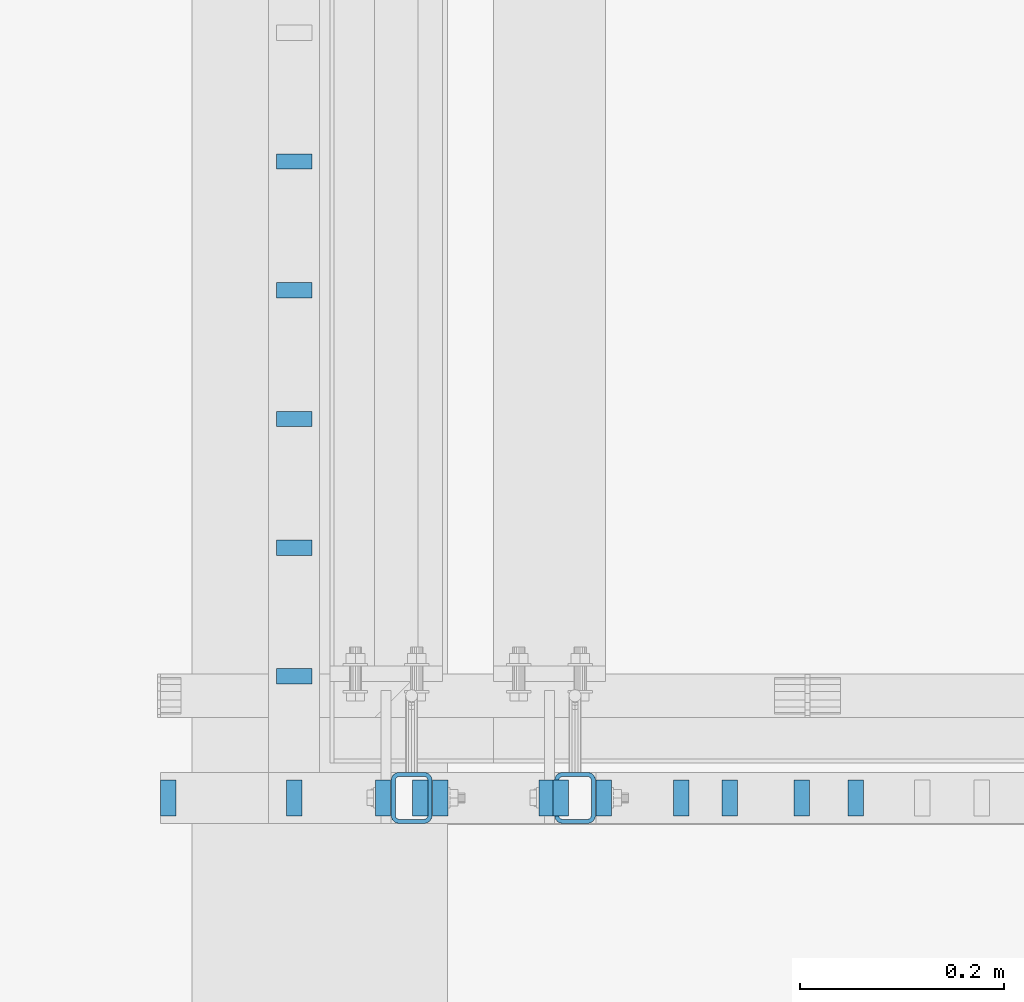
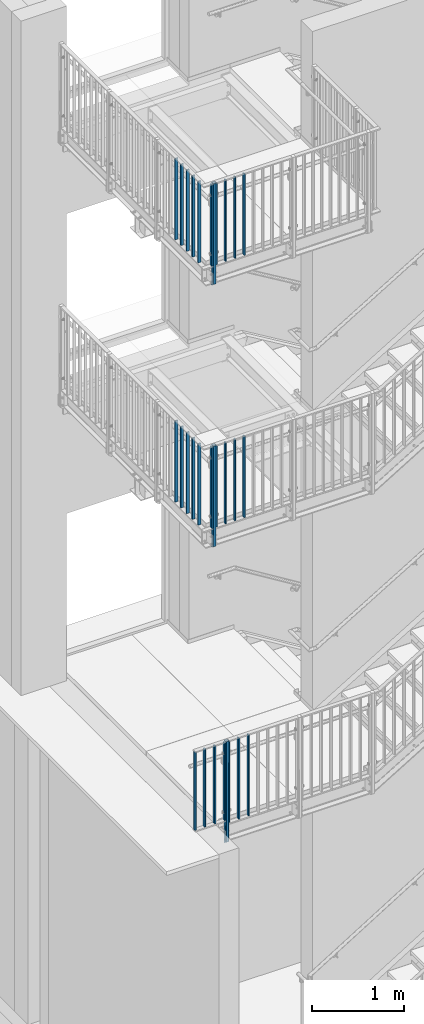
# One storey, part 1 of 410: 30 columns, 36 openings.
"""IFC2X3 building model written with IfcOpenShell, lengths in millimetres."""

from ifc_helpers import new_model, entity, si_unit, converted_unit, frame, frame_2d, origin, origin_with_axes, origin_2d, place, context, project, spatial, rectangle, hollow_rectangle, circle, extrude, clip, halfspace, material, element, save


model = new_model("IFC2X3")

# Units and contexts
model_context = context("Model", 3, precision=1e-09, world=origin_with_axes())
ifc_project = project(units=[si_unit("LENGTHUNIT", "METRE", prefix="MILLI"), si_unit("AREAUNIT", "SQUARE_METRE"), si_unit("VOLUMEUNIT", "CUBIC_METRE"), converted_unit("PLANEANGLEUNIT", "DEGREE", entity("IfcPlaneAngleMeasure", 0.01745329), si_unit("PLANEANGLEUNIT", "RADIAN"), dimensions=[0, 0, 0, 0, 0, 0, 0])], contexts=[model_context])

# Site, building, storey
site_placement = place(None, origin_with_axes())
site = spatial("IfcSite", under=ifc_project, at=site_placement, Name="mKR Teilneubau & Sanierung BA1 - Ostfildern", CompositionType="ELEMENT")
building_placement = place(site_placement, origin_with_axes())
building = spatial("IfcBuilding", under=site, at=building_placement, Name="Struktur 1", CompositionType="ELEMENT")
storey_placement = place(building_placement, origin_with_axes())
storey = spatial("IfcBuildingStorey", under=building, at=storey_placement, Name="Default Storey", CompositionType="ELEMENT", Elevation=0.0)

# Column, openings
ifc_material = material(Name="S235JR")
column_1_placement = place(None, frame((-3784.99853167, 15405.999999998, 8595.0), z_axis=(0.0, 0.0, 1.0), x_axis=(-1.0, 0.0, 0.0)))
column_1 = element("IfcColumn", 1, at=column_1_placement, inside=storey, material=ifc_material, Name="-", ObjectType="-", context=model_context, shape_type="Clipping", body=[
    clip(extrude(hollow_rectangle(XDim=40.0, YDim=50.0, WallThickness=4.0, InnerFilletRadius=4.0, OuterFilletRadius=8.0, at=origin_2d()), origin(), (0.0, 0.0, -1.0), 1444.603221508), halfspace(frame((-3784.99853167, 6937.065481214, 3499.89195223), z_axis=(0.0, -0.573576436, 0.819152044), x_axis=(1.0, 0.0, 0.0)), True)),
])
opening_1_placement = place(column_1_placement, frame((-20.5, 0.0, -1265.0), z_axis=(1.0, 0.0, 0.0), x_axis=(0.0, 1.0, 0.0)))
element("IfcOpeningElement", 2, at=opening_1_placement, cuts=column_1, ObjectType="Opening", context=model_context, shape_type="SweptSolid", body=[
    extrude(circle(Radius=7.001, at=frame_2d((0.0, 50.0), x_axis=(1.0, 0.0))), origin(), (0.0, 0.0, 1.0), 5.0),
])
opening_2_placement = place(column_1_placement, frame((-20.5, 0.0, -1265.0), z_axis=(1.0, 0.0, 0.0), x_axis=(0.0, 1.0, 0.0)))
element("IfcOpeningElement", 3, at=opening_2_placement, cuts=column_1, ObjectType="Opening", context=model_context, shape_type="SweptSolid", body=[
    extrude(circle(Radius=7.001, at=frame_2d((0.0, -50.0), x_axis=(1.0, 0.0))), origin(), (0.0, 0.0, 1.0), 5.0),
])
opening_3_placement = place(column_1_placement, frame((15.5, 0.0, -1265.0), z_axis=(1.0, 0.0, 0.0), x_axis=(0.0, 1.0, 0.0)))
element("IfcOpeningElement", 4, at=opening_3_placement, cuts=column_1, ObjectType="Opening", context=model_context, shape_type="SweptSolid", body=[
    extrude(circle(Radius=7.001, at=frame_2d((0.0, 50.0), x_axis=(1.0, 0.0))), origin(), (0.0, 0.0, 1.0), 5.0),
])
opening_4_placement = place(column_1_placement, frame((15.5, 0.0, -1265.0), z_axis=(1.0, 0.0, 0.0), x_axis=(0.0, 1.0, 0.0)))
element("IfcOpeningElement", 5, at=opening_4_placement, cuts=column_1, ObjectType="Opening", context=model_context, shape_type="SweptSolid", body=[
    extrude(circle(Radius=7.001, at=frame_2d((0.0, -50.0), x_axis=(1.0, 0.0))), origin(), (0.0, 0.0, 1.0), 5.0),
])
opening_5_placement = place(column_1_placement, frame((15.5, -6.501, -945.0), z_axis=(-1.0, 0.0, 0.0), x_axis=(0.0, -1.0, 0.0)))
element("IfcOpeningElement", 6, at=opening_5_placement, cuts=column_1, ObjectType="Opening", context=model_context, shape_type="SweptSolid", body=[
    extrude(circle(Radius=6.501, at=frame_2d((-6.501, 0.0), x_axis=(1.0, 0.0))), origin(), (0.0, 0.0, -1.0), 5.0),
])
opening_6_placement = place(column_1_placement, frame((15.5, -6.501, -160.0), z_axis=(-1.0, 0.0, 0.0), x_axis=(0.0, -1.0, 0.0)))
element("IfcOpeningElement", 7, at=opening_6_placement, cuts=column_1, ObjectType="Opening", context=model_context, shape_type="SweptSolid", body=[
    extrude(circle(Radius=6.501, at=frame_2d((-6.501, 0.0), x_axis=(1.0, 0.0))), origin(), (0.0, 0.0, -1.0), 5.0),
])
opening_7_placement = place(column_1_placement, frame((-20.5, -6.501, -945.0), z_axis=(-1.0, 0.0, 0.0), x_axis=(0.0, -1.0, 0.0)))
element("IfcOpeningElement", 8, at=opening_7_placement, cuts=column_1, ObjectType="Opening", context=model_context, shape_type="SweptSolid", body=[
    extrude(circle(Radius=6.501, at=frame_2d((-6.501, 0.0), x_axis=(1.0, 0.0))), origin(), (0.0, 0.0, -1.0), 5.0),
])
opening_8_placement = place(column_1_placement, frame((-20.5, -6.501, -160.0), z_axis=(-1.0, 0.0, 0.0), x_axis=(0.0, -1.0, 0.0)))
element("IfcOpeningElement", 9, at=opening_8_placement, cuts=column_1, ObjectType="Opening", context=model_context, shape_type="SweptSolid", body=[
    extrude(circle(Radius=6.501, at=frame_2d((-6.501, 0.0), x_axis=(1.0, 0.0))), origin(), (0.0, 0.0, -1.0), 5.0),
])

column_2_placement = place(None, frame((-3784.99853167, 15405.999999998, 5095.0), z_axis=(0.0, 0.0, 1.0), x_axis=(-1.0, 0.0, 0.0)))
column_2 = element("IfcColumn", 10, at=column_2_placement, inside=storey, material=ifc_material, Name="-", ObjectType="-", context=model_context, shape_type="Clipping", body=[
    clip(extrude(hollow_rectangle(XDim=40.0, YDim=50.0, WallThickness=4.0, InnerFilletRadius=4.0, OuterFilletRadius=8.0, at=origin_2d()), origin(), (0.0, 0.0, -1.0), 1444.603221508), halfspace(frame((-3784.99853167, 8581.527567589, 4651.356701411), z_axis=(0.0, -0.573576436, 0.819152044), x_axis=(1.0, 0.0, 0.0)), True)),
])
opening_9_placement = place(column_2_placement, frame((-20.5, 0.0, -1265.0), z_axis=(1.0, 0.0, 0.0), x_axis=(0.0, 1.0, 0.0)))
element("IfcOpeningElement", 11, at=opening_9_placement, cuts=column_2, ObjectType="Opening", context=model_context, shape_type="SweptSolid", body=[
    extrude(circle(Radius=7.001, at=frame_2d((0.0, 50.0), x_axis=(1.0, 0.0))), origin(), (0.0, 0.0, 1.0), 5.0),
])
opening_10_placement = place(column_2_placement, frame((-20.5, 0.0, -1265.0), z_axis=(1.0, 0.0, 0.0), x_axis=(0.0, 1.0, 0.0)))
element("IfcOpeningElement", 12, at=opening_10_placement, cuts=column_2, ObjectType="Opening", context=model_context, shape_type="SweptSolid", body=[
    extrude(circle(Radius=7.001, at=frame_2d((0.0, -50.0), x_axis=(1.0, 0.0))), origin(), (0.0, 0.0, 1.0), 5.0),
])
opening_11_placement = place(column_2_placement, frame((15.5, 0.0, -1265.0), z_axis=(1.0, 0.0, 0.0), x_axis=(0.0, 1.0, 0.0)))
element("IfcOpeningElement", 13, at=opening_11_placement, cuts=column_2, ObjectType="Opening", context=model_context, shape_type="SweptSolid", body=[
    extrude(circle(Radius=7.001, at=frame_2d((0.0, 50.0), x_axis=(1.0, 0.0))), origin(), (0.0, 0.0, 1.0), 5.0),
])
opening_12_placement = place(column_2_placement, frame((15.5, 0.0, -1265.0), z_axis=(1.0, 0.0, 0.0), x_axis=(0.0, 1.0, 0.0)))
element("IfcOpeningElement", 14, at=opening_12_placement, cuts=column_2, ObjectType="Opening", context=model_context, shape_type="SweptSolid", body=[
    extrude(circle(Radius=7.001, at=frame_2d((0.0, -50.0), x_axis=(1.0, 0.0))), origin(), (0.0, 0.0, 1.0), 5.0),
])
opening_13_placement = place(column_2_placement, frame((15.5, -6.501, -945.0), z_axis=(-1.0, 0.0, 0.0), x_axis=(0.0, -1.0, 0.0)))
element("IfcOpeningElement", 15, at=opening_13_placement, cuts=column_2, ObjectType="Opening", context=model_context, shape_type="SweptSolid", body=[
    extrude(circle(Radius=6.501, at=frame_2d((-6.501, 0.0), x_axis=(1.0, 0.0))), origin(), (0.0, 0.0, -1.0), 5.0),
])
opening_14_placement = place(column_2_placement, frame((15.5, -6.501, -160.0), z_axis=(-1.0, 0.0, 0.0), x_axis=(0.0, -1.0, 0.0)))
element("IfcOpeningElement", 16, at=opening_14_placement, cuts=column_2, ObjectType="Opening", context=model_context, shape_type="SweptSolid", body=[
    extrude(circle(Radius=6.501, at=frame_2d((-6.501, 0.0), x_axis=(1.0, 0.0))), origin(), (0.0, 0.0, -1.0), 5.0),
])
opening_15_placement = place(column_2_placement, frame((-20.5, -6.501, -945.0), z_axis=(-1.0, 0.0, 0.0), x_axis=(0.0, -1.0, 0.0)))
element("IfcOpeningElement", 17, at=opening_15_placement, cuts=column_2, ObjectType="Opening", context=model_context, shape_type="SweptSolid", body=[
    extrude(circle(Radius=6.501, at=frame_2d((-6.501, 0.0), x_axis=(1.0, 0.0))), origin(), (0.0, 0.0, -1.0), 5.0),
])
opening_16_placement = place(column_2_placement, frame((-20.5, -6.501, -160.0), z_axis=(-1.0, 0.0, 0.0), x_axis=(0.0, -1.0, 0.0)))
element("IfcOpeningElement", 18, at=opening_16_placement, cuts=column_2, ObjectType="Opening", context=model_context, shape_type="SweptSolid", body=[
    extrude(circle(Radius=6.501, at=frame_2d((-6.501, 0.0), x_axis=(1.0, 0.0))), origin(), (0.0, 0.0, -1.0), 5.0),
])

column_3_placement = place(None, frame((-3624.99853167, 15405.999999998, 1095.0), z_axis=(0.0, 0.0, 1.0), x_axis=(-1.0, 0.0, 0.0)))
column_3 = element("IfcColumn", 19, at=column_3_placement, inside=storey, material=ifc_material, Name="-", ObjectType="-", context=model_context, shape_type="Clipping", body=[
    clip(extrude(hollow_rectangle(XDim=40.0, YDim=50.0, WallThickness=4.0, InnerFilletRadius=4.0, OuterFilletRadius=8.0, at=origin_2d()), origin(), (0.0, 0.0, -1.0), 1444.603221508), halfspace(frame((-3624.99853167, 10460.912809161, 5967.316414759), z_axis=(0.0, -0.573576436, 0.819152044), x_axis=(1.0, 0.0, 0.0)), True)),
])
opening_17_placement = place(column_3_placement, frame((-20.5, 0.0, -1265.0), z_axis=(1.0, 0.0, 0.0), x_axis=(0.0, 1.0, 0.0)))
element("IfcOpeningElement", 20, at=opening_17_placement, cuts=column_3, ObjectType="Opening", context=model_context, shape_type="SweptSolid", body=[
    extrude(circle(Radius=7.001, at=frame_2d((0.0, 50.0), x_axis=(1.0, 0.0))), origin(), (0.0, 0.0, 1.0), 5.0),
])
opening_18_placement = place(column_3_placement, frame((-20.5, 0.0, -1265.0), z_axis=(1.0, 0.0, 0.0), x_axis=(0.0, 1.0, 0.0)))
element("IfcOpeningElement", 21, at=opening_18_placement, cuts=column_3, ObjectType="Opening", context=model_context, shape_type="SweptSolid", body=[
    extrude(circle(Radius=7.001, at=frame_2d((0.0, -50.0), x_axis=(1.0, 0.0))), origin(), (0.0, 0.0, 1.0), 5.0),
])
opening_19_placement = place(column_3_placement, frame((15.5, 0.0, -1265.0), z_axis=(1.0, 0.0, 0.0), x_axis=(0.0, 1.0, 0.0)))
element("IfcOpeningElement", 22, at=opening_19_placement, cuts=column_3, ObjectType="Opening", context=model_context, shape_type="SweptSolid", body=[
    extrude(circle(Radius=7.001, at=frame_2d((0.0, 50.0), x_axis=(1.0, 0.0))), origin(), (0.0, 0.0, 1.0), 5.0),
])
opening_20_placement = place(column_3_placement, frame((15.5, 0.0, -1265.0), z_axis=(1.0, 0.0, 0.0), x_axis=(0.0, 1.0, 0.0)))
element("IfcOpeningElement", 23, at=opening_20_placement, cuts=column_3, ObjectType="Opening", context=model_context, shape_type="SweptSolid", body=[
    extrude(circle(Radius=7.001, at=frame_2d((0.0, -50.0), x_axis=(1.0, 0.0))), origin(), (0.0, 0.0, 1.0), 5.0),
])
opening_21_placement = place(column_3_placement, frame((15.5, -6.501, -945.0), z_axis=(-1.0, 0.0, 0.0), x_axis=(0.0, -1.0, 0.0)))
element("IfcOpeningElement", 24, at=opening_21_placement, cuts=column_3, ObjectType="Opening", context=model_context, shape_type="SweptSolid", body=[
    extrude(circle(Radius=6.501, at=frame_2d((-6.501, 0.0), x_axis=(1.0, 0.0))), origin(), (0.0, 0.0, -1.0), 5.0),
])
opening_22_placement = place(column_3_placement, frame((15.5, -6.501, -160.0), z_axis=(-1.0, 0.0, 0.0), x_axis=(0.0, -1.0, 0.0)))
element("IfcOpeningElement", 25, at=opening_22_placement, cuts=column_3, ObjectType="Opening", context=model_context, shape_type="SweptSolid", body=[
    extrude(circle(Radius=6.501, at=frame_2d((-6.501, 0.0), x_axis=(1.0, 0.0))), origin(), (0.0, 0.0, -1.0), 5.0),
])
opening_23_placement = place(column_3_placement, frame((-20.5, -6.501, -945.0), z_axis=(-1.0, 0.0, 0.0), x_axis=(0.0, -1.0, 0.0)))
element("IfcOpeningElement", 26, at=opening_23_placement, cuts=column_3, ObjectType="Opening", context=model_context, shape_type="SweptSolid", body=[
    extrude(circle(Radius=6.501, at=frame_2d((-6.501, 0.0), x_axis=(1.0, 0.0))), origin(), (0.0, 0.0, -1.0), 5.0),
])
opening_24_placement = place(column_3_placement, frame((-20.5, -6.501, -160.0), z_axis=(-1.0, 0.0, 0.0), x_axis=(0.0, -1.0, 0.0)))
element("IfcOpeningElement", 27, at=opening_24_placement, cuts=column_3, ObjectType="Opening", context=model_context, shape_type="SweptSolid", body=[
    extrude(circle(Radius=6.501, at=frame_2d((-6.501, 0.0), x_axis=(1.0, 0.0))), origin(), (0.0, 0.0, -1.0), 5.0),
])

# Columns
for number, where, z_axis, x_axis in (
    (28, (-3402.99853167, 15405.999999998, 5085.0), (0.0, 0.0, 1.0), (-1.0, 0.0, 0.0)),
    (29, (-3520.99853167, 15405.999999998, 5085.0), (0.0, 0.0, 1.0), (-1.0, 0.0, 0.0)),
    (30, (-3638.99853167, 15405.999999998, 5085.0), (0.0, 0.0, 1.0), (-1.0, 0.0, 0.0)),
    (31, (-3473.56996027, 15405.999999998, 0.0), (0.0, 0.0, -1.0), (1.0, 0.0, 0.0)),
    (32, (-3350.14138887, 15405.999999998, 0.0), (0.0, 0.0, -1.0), (1.0, 0.0, 0.0)),
):
    element("IfcColumn", number, at=place(None, frame(where, z_axis=z_axis, x_axis=x_axis)), inside=storey, material=ifc_material, Name="-", ObjectType="-", context=model_context, shape_type="SweptSolid", body=[
        extrude(rectangle(XDim=15.0, YDim=35.0, at=origin_2d()), origin(), (0.0, 0.0, -1.0), 1085.0),
    ])

# Column, openings
column_4_placement = place(None, frame((-3812.99853167, 15405.999999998, 4000.0), z_axis=(0.0, 0.0, 1.0), x_axis=(-1.0, 0.0, 0.0)))
column_4 = element("IfcColumn", 33, at=column_4_placement, inside=storey, material=ifc_material, Name="-", ObjectType="-", context=model_context, shape_type="SweptSolid", body=[
    extrude(rectangle(XDim=15.0, YDim=35.0, at=origin_2d()), origin(), (0.0, 0.0, 1.0), 1085.0),
])
opening_25_placement = place(column_4_placement, frame((-8.0, -6.001, 150.0), z_axis=(-1.0, 0.0, 0.0), x_axis=(0.0, -1.0, 0.0)))
element("IfcOpeningElement", 34, at=opening_25_placement, cuts=column_4, ObjectType="Opening", context=model_context, shape_type="SweptSolid", body=[
    extrude(circle(Radius=6.001, at=frame_2d((-6.001, 0.0), x_axis=(1.0, 0.0))), origin(), (0.0, 0.0, -1.0), 16.0),
])
opening_26_placement = place(column_4_placement, frame((-8.0, -6.001, 935.0), z_axis=(-1.0, 0.0, 0.0), x_axis=(0.0, -1.0, 0.0)))
element("IfcOpeningElement", 35, at=opening_26_placement, cuts=column_4, ObjectType="Opening", context=model_context, shape_type="SweptSolid", body=[
    extrude(circle(Radius=6.001, at=frame_2d((-6.001, 0.0), x_axis=(1.0, 0.0))), origin(), (0.0, 0.0, -1.0), 16.0),
])

# Columns
for number, where, z_axis, x_axis in (
    (36, (-3899.9485317, 16028.999999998, 4000.000000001), (0.0, 0.0, -1.0), (0.0, -1.0, 0.0)),
    (37, (-3899.9485317, 15902.999999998, 4000.000000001), (0.0, 0.0, -1.0), (0.0, -1.0, 0.0)),
    (38, (-3899.9485317, 15776.999999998, 4000.000000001), (0.0, 0.0, -1.0), (0.0, -1.0, 0.0)),
    (39, (-3899.9485317, 15650.999999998, 4000.000000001), (0.0, 0.0, -1.0), (0.0, -1.0, 0.0)),
    (40, (-3899.9485317, 15524.999999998, 4000.000000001), (0.0, 0.0, -1.0), (0.0, -1.0, 0.0)),
):
    element("IfcColumn", number, at=place(None, frame(where, z_axis=z_axis, x_axis=x_axis)), inside=storey, material=ifc_material, Name="-", ObjectType="-", context=model_context, shape_type="SweptSolid", body=[
        extrude(rectangle(XDim=15.0, YDim=35.0, at=origin_2d()), origin(), (0.0, 0.0, -1.0), 1085.000007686),
    ])

# Column, openings
column_5_placement = place(None, frame((-3756.99853167, 15405.999999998, 7500.0), z_axis=(0.0, 0.0, -1.0), x_axis=(1.0, 0.0, 0.0)))
column_5 = element("IfcColumn", 41, at=column_5_placement, inside=storey, material=ifc_material, Name="-", ObjectType="-", context=model_context, shape_type="SweptSolid", body=[
    extrude(rectangle(XDim=15.0, YDim=35.0, at=origin_2d()), origin(), (0.0, 0.0, -1.0), 1085.0),
])
opening_27_placement = place(column_5_placement, frame((8.0, -6.001, -150.0), z_axis=(1.0, 0.0, 0.0), x_axis=(0.0, 1.0, 0.0)))
element("IfcOpeningElement", 42, at=opening_27_placement, cuts=column_5, ObjectType="Opening", context=model_context, shape_type="SweptSolid", body=[
    extrude(circle(Radius=6.001, at=frame_2d((6.001, 0.0), x_axis=(1.0, 0.0))), origin(), (0.0, 0.0, -1.0), 16.0),
])
opening_28_placement = place(column_5_placement, frame((8.0, -6.001, -935.0), z_axis=(1.0, 0.0, 0.0), x_axis=(0.0, 1.0, 0.0)))
element("IfcOpeningElement", 43, at=opening_28_placement, cuts=column_5, ObjectType="Opening", context=model_context, shape_type="SweptSolid", body=[
    extrude(circle(Radius=6.001, at=frame_2d((6.001, 0.0), x_axis=(1.0, 0.0))), origin(), (0.0, 0.0, -1.0), 16.0),
])

# Columns
for number, where, z_axis, x_axis in (
    (44, (-3402.99853167, 15405.999999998, 8585.0), (0.0, 0.0, 1.0), (-1.0, 0.0, 0.0)),
    (45, (-3520.99853167, 15405.999999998, 8585.0), (0.0, 0.0, 1.0), (-1.0, 0.0, 0.0)),
    (46, (-3638.99853167, 15405.999999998, 8585.0), (0.0, 0.0, 1.0), (-1.0, 0.0, 0.0)),
):
    element("IfcColumn", number, at=place(None, frame(where, z_axis=z_axis, x_axis=x_axis)), inside=storey, material=ifc_material, Name="-", ObjectType="-", context=model_context, shape_type="SweptSolid", body=[
        extrude(rectangle(XDim=15.0, YDim=35.0, at=origin_2d()), origin(), (0.0, 0.0, -1.0), 1085.0),
    ])

# Column, openings
column_6_placement = place(None, frame((-3812.99853167, 15405.999999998, 7500.0), z_axis=(0.0, 0.0, 1.0), x_axis=(-1.0, 0.0, 0.0)))
column_6 = element("IfcColumn", 47, at=column_6_placement, inside=storey, material=ifc_material, Name="-", ObjectType="-", context=model_context, shape_type="SweptSolid", body=[
    extrude(rectangle(XDim=15.0, YDim=35.0, at=origin_2d()), origin(), (0.0, 0.0, 1.0), 1085.0),
])
opening_29_placement = place(column_6_placement, frame((-8.0, -6.001, 150.0), z_axis=(-1.0, 0.0, 0.0), x_axis=(0.0, -1.0, 0.0)))
element("IfcOpeningElement", 48, at=opening_29_placement, cuts=column_6, ObjectType="Opening", context=model_context, shape_type="SweptSolid", body=[
    extrude(circle(Radius=6.001, at=frame_2d((-6.001, 0.0), x_axis=(1.0, 0.0))), origin(), (0.0, 0.0, -1.0), 16.0),
])
opening_30_placement = place(column_6_placement, frame((-8.0, -6.001, 935.0), z_axis=(-1.0, 0.0, 0.0), x_axis=(0.0, -1.0, 0.0)))
element("IfcOpeningElement", 49, at=opening_30_placement, cuts=column_6, ObjectType="Opening", context=model_context, shape_type="SweptSolid", body=[
    extrude(circle(Radius=6.001, at=frame_2d((-6.001, 0.0), x_axis=(1.0, 0.0))), origin(), (0.0, 0.0, -1.0), 16.0),
])

# Columns
for number, where, z_axis, x_axis in (
    (50, (-3899.9485317, 16028.999999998, 7500.000000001), (0.0, 0.0, -1.0), (0.0, -1.0, 0.0)),
    (51, (-3899.9485317, 15902.999999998, 7500.000000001), (0.0, 0.0, -1.0), (0.0, -1.0, 0.0)),
    (52, (-3899.9485317, 15776.999999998, 7500.000000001), (0.0, 0.0, -1.0), (0.0, -1.0, 0.0)),
    (53, (-3899.9485317, 15650.999999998, 7500.000000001), (0.0, 0.0, -1.0), (0.0, -1.0, 0.0)),
    (54, (-3899.9485317, 15524.999999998, 7500.000000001), (0.0, 0.0, -1.0), (0.0, -1.0, 0.0)),
):
    element("IfcColumn", number, at=place(None, frame(where, z_axis=z_axis, x_axis=x_axis)), inside=storey, material=ifc_material, Name="-", ObjectType="-", context=model_context, shape_type="SweptSolid", body=[
        extrude(rectangle(XDim=15.0, YDim=35.0, at=origin_2d()), origin(), (0.0, 0.0, -1.0), 1085.000007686),
    ])
for number, where, z_axis, x_axis in (
    (55, (-4023.28424607, 15405.999999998, 45.0), (0.0, 0.0, -1.0), (1.0, 0.0, 0.0)),
    (56, (-3899.85567467, 15405.999999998, 45.0), (0.0, 0.0, -1.0), (1.0, 0.0, 0.0)),
    (57, (-3776.42710327, 15405.999999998, 45.0), (0.0, 0.0, -1.0), (1.0, 0.0, 0.0)),
):
    element("IfcColumn", number, at=place(None, frame(where, z_axis=z_axis, x_axis=x_axis)), inside=storey, material=ifc_material, Name="-", ObjectType="-", context=model_context, shape_type="SweptSolid", body=[
        extrude(rectangle(XDim=15.0, YDim=35.0, at=origin_2d()), origin(), (0.0, 0.0, -1.0), 1040.0),
    ])

# Column, openings
column_7_placement = place(None, frame((-3652.99853167, 15405.999999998, 1085.0), z_axis=(0.0, 0.0, 1.0), x_axis=(-1.0, 0.0, 0.0)))
column_7 = element("IfcColumn", 58, at=column_7_placement, inside=storey, material=ifc_material, Name="-", ObjectType="-", context=model_context, shape_type="SweptSolid", body=[
    extrude(rectangle(XDim=15.0, YDim=35.0, at=origin_2d()), origin(), (0.0, 0.0, -1.0), 1040.0),
])
opening_31_placement = place(column_7_placement, frame((-8.0, -6.001, -935.0), z_axis=(-1.0, 0.0, 0.0), x_axis=(0.0, -1.0, 0.0)))
element("IfcOpeningElement", 59, at=opening_31_placement, cuts=column_7, ObjectType="Opening", context=model_context, shape_type="SweptSolid", body=[
    extrude(circle(Radius=6.001, at=frame_2d((-6.001, 0.0), x_axis=(1.0, 0.0))), origin(), (0.0, 0.0, -1.0), 16.0),
])
opening_32_placement = place(column_7_placement, frame((-8.0, -6.001, -150.0), z_axis=(-1.0, 0.0, 0.0), x_axis=(0.0, -1.0, 0.0)))
element("IfcOpeningElement", 60, at=opening_32_placement, cuts=column_7, ObjectType="Opening", context=model_context, shape_type="SweptSolid", body=[
    extrude(circle(Radius=6.001, at=frame_2d((-6.001, 0.0), x_axis=(1.0, 0.0))), origin(), (0.0, 0.0, -1.0), 16.0),
])

column_8_placement = place(None, frame((-3756.99853167, 15405.999999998, 4000.0), z_axis=(0.0, 0.0, -1.0), x_axis=(1.0, 0.0, 0.0)))
column_8 = element("IfcColumn", 61, at=column_8_placement, inside=storey, material=ifc_material, Name="-", ObjectType="-", context=model_context, shape_type="SweptSolid", body=[
    extrude(rectangle(XDim=15.0, YDim=35.0, at=origin_2d()), origin(), (0.0, 0.0, -1.0), 1085.0),
])
opening_33_placement = place(column_8_placement, frame((8.0, -6.001, -150.0), z_axis=(1.0, 0.0, 0.0), x_axis=(0.0, 1.0, 0.0)))
element("IfcOpeningElement", 62, at=opening_33_placement, cuts=column_8, ObjectType="Opening", context=model_context, shape_type="SweptSolid", body=[
    extrude(circle(Radius=6.001, at=frame_2d((6.001, 0.0), x_axis=(1.0, 0.0))), origin(), (0.0, 0.0, -1.0), 16.0),
])
opening_34_placement = place(column_8_placement, frame((8.0, -6.001, -935.0), z_axis=(1.0, 0.0, 0.0), x_axis=(0.0, 1.0, 0.0)))
element("IfcOpeningElement", 63, at=opening_34_placement, cuts=column_8, ObjectType="Opening", context=model_context, shape_type="SweptSolid", body=[
    extrude(circle(Radius=6.001, at=frame_2d((6.001, 0.0), x_axis=(1.0, 0.0))), origin(), (0.0, 0.0, -1.0), 16.0),
])

column_9_placement = place(None, frame((-3596.99853167, 15405.999999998, 0.0), z_axis=(0.0, 0.0, -1.0), x_axis=(1.0, 0.0, 0.0)))
column_9 = element("IfcColumn", 64, at=column_9_placement, inside=storey, material=ifc_material, Name="-", ObjectType="-", context=model_context, shape_type="SweptSolid", body=[
    extrude(rectangle(XDim=15.0, YDim=35.0, at=origin_2d()), origin(), (0.0, 0.0, -1.0), 1085.0),
])
opening_35_placement = place(column_9_placement, frame((8.0, -6.001, -150.0), z_axis=(1.0, 0.0, 0.0), x_axis=(0.0, 1.0, 0.0)))
element("IfcOpeningElement", 65, at=opening_35_placement, cuts=column_9, ObjectType="Opening", context=model_context, shape_type="SweptSolid", body=[
    extrude(circle(Radius=6.001, at=frame_2d((6.001, 0.0), x_axis=(1.0, 0.0))), origin(), (0.0, 0.0, -1.0), 16.0),
])
opening_36_placement = place(column_9_placement, frame((8.0, -6.001, -935.0), z_axis=(1.0, 0.0, 0.0), x_axis=(0.0, 1.0, 0.0)))
element("IfcOpeningElement", 66, at=opening_36_placement, cuts=column_9, ObjectType="Opening", context=model_context, shape_type="SweptSolid", body=[
    extrude(circle(Radius=6.001, at=frame_2d((6.001, 0.0), x_axis=(1.0, 0.0))), origin(), (0.0, 0.0, -1.0), 16.0),
])

save(model, "model.ifc")
